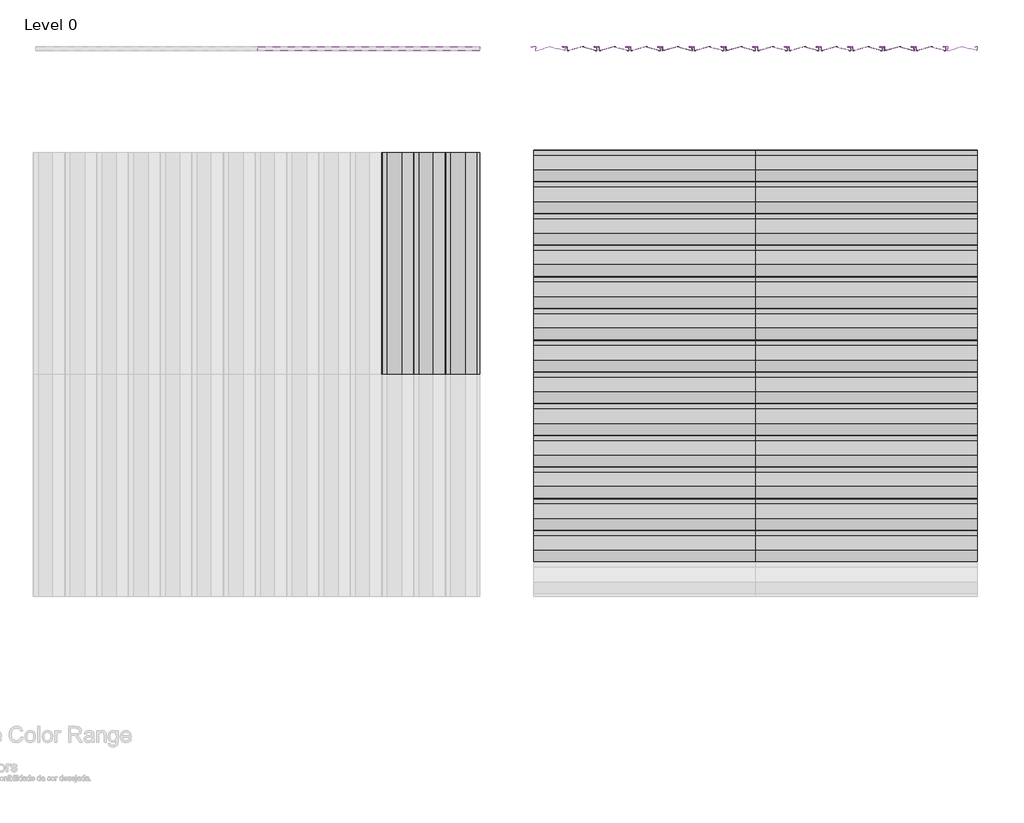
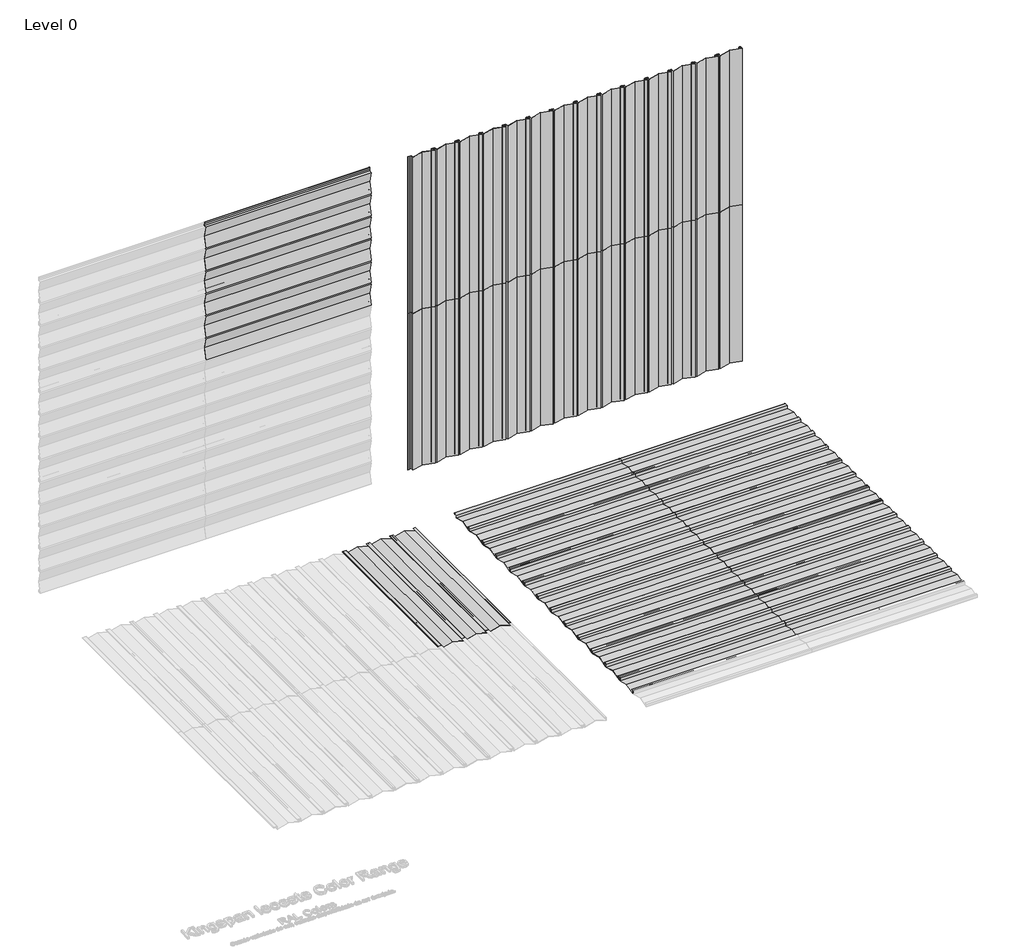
# One storey, part 2 of 2: 63 proxies.
"""IFC4 building model written with IfcOpenShell, lengths in millimetres."""

from ifc_helpers import new_model, si_unit, origin, place, context, project, spatial, transform, mapped, element, save
from components import ps9_0_standard_panel_ns_52e81e55, ps9_0_standard_panel_ns_6eacb7c6

model = new_model("IFC4")

# Units and contexts
model_context = context("Model", 3, world=origin())
ifc_project = project(units=[si_unit("LENGTHUNIT", "METRE", prefix="MILLI")], contexts=[model_context])

# Site, building, storey
site = spatial("IfcSite", under=ifc_project)
building = spatial("IfcBuilding", under=site)
storey = spatial("IfcBuildingStorey", under=building, Name="Level 0", Elevation=0.0)

# Proxies
placement = place(None, origin())
ps9_0_standard_panel_ns_shape = ps9_0_standard_panel_ns_52e81e55(model_context)
element("IfcBuildingElementProxy", 1, Name="PS9.0 : Standard Panel_NS", ObjectType="PS9.0 : Standard Panel_NS", at=placement, inside=storey, context=model_context, shape_type="MappedRepresentation", body=[
    mapped(ps9_0_standard_panel_ns_shape, transform((1289.7088668, 1358.3113453, 0.0), x_axis=(1.0, 0.0, 0.0), y_axis=(0.0, 1.0, 0.0), z_axis=(0.0, 0.0, 1.0))),
])
element("IfcBuildingElementProxy", 2, Name="PS9.0 : Standard Panel_NS", ObjectType="PS9.0 : Standard Panel_NS", at=placement, inside=storey, context=model_context, shape_type="MappedRepresentation", body=[
    mapped(ps9_0_standard_panel_ns_shape, transform((1289.7088668, 3758.3113453, 0.0), x_axis=(1.0, 0.0, 0.0), y_axis=(0.0, 1.0, 0.0), z_axis=(0.0, 0.0, 1.0))),
])
element("IfcBuildingElementProxy", 3, Name="PS9.0 : Standard Panel_NS", ObjectType="PS9.0 : Standard Panel_NS", at=placement, inside=storey, context=model_context, shape_type="MappedRepresentation", body=[
    mapped(ps9_0_standard_panel_ns_shape, transform((3389.7088668, 1358.3113453, 0.0), x_axis=(1.0, 0.0, 0.0), y_axis=(0.0, 1.0, 0.0), z_axis=(0.0, 0.0, 1.0))),
])
element("IfcBuildingElementProxy", 4, Name="PS9.0 : Standard Panel_NS", ObjectType="PS9.0 : Standard Panel_NS", at=placement, inside=storey, context=model_context, shape_type="MappedRepresentation", body=[
    mapped(ps9_0_standard_panel_ns_shape, transform((3389.7088668, 3758.3113453, 0.0), x_axis=(1.0, 0.0, 0.0), y_axis=(0.0, 1.0, 0.0), z_axis=(0.0, 0.0, 1.0))),
])
ps9_0_standard_panel_ns_2_shape = ps9_0_standard_panel_ns_6eacb7c6(model_context)
element("IfcBuildingElementProxy", 5, Name="PS9.0 : Standard Panel_NS", ObjectType="PS9.0 : Standard Panel_NS", at=placement, inside=storey, context=model_context, shape_type="MappedRepresentation", body=[
    mapped(ps9_0_standard_panel_ns_2_shape, transform((1589.7088666, 5063.0274074, 0.0), x_axis=(0.0, 0.0, 1.0), y_axis=(-1.0, 0.0, 0.0), z_axis=(0.0, -1.0, 0.0))),
])
element("IfcBuildingElementProxy", 6, Name="PS9.0 : Standard Panel_NS", ObjectType="PS9.0 : Standard Panel_NS", at=placement, inside=storey, context=model_context, shape_type="MappedRepresentation", body=[
    mapped(ps9_0_standard_panel_ns_2_shape, transform((1589.7088666, 5063.0274074, 2100.0), x_axis=(0.0, 0.0, 1.0), y_axis=(-1.0, 0.0, 0.0), z_axis=(0.0, -1.0, 0.0))),
])
element("IfcBuildingElementProxy", 7, Name="PS9.0 : Standard Panel_NS", ObjectType="PS9.0 : Standard Panel_NS", at=placement, inside=storey, context=model_context, shape_type="MappedRepresentation", body=[
    mapped(ps9_0_standard_panel_ns_2_shape, transform((-1317.7637295, 5063.0274074, 3900.0), x_axis=(1.0, 0.0, 0.0), y_axis=(0.0, 0.0, 1.0), z_axis=(0.0, -1.0, 0.0))),
])
element("IfcBuildingElementProxy", 8, Name="PS9.0 : Standard Panel_NS", ObjectType="PS9.0 : Standard Panel_NS", at=placement, inside=storey, context=model_context, shape_type="MappedRepresentation", body=[
    mapped(ps9_0_standard_panel_ns_2_shape, transform((3989.7088665, 5063.0274074, 0.0), x_axis=(0.0, 0.0, 1.0), y_axis=(-1.0, 0.0, 0.0), z_axis=(0.0, -1.0, 0.0))),
])
element("IfcBuildingElementProxy", 9, Name="PS9.0 : Standard Panel_NS", ObjectType="PS9.0 : Standard Panel_NS", at=placement, inside=storey, context=model_context, shape_type="MappedRepresentation", body=[
    mapped(ps9_0_standard_panel_ns_2_shape, transform((3989.7088665, 5063.0274074, 2100.0), x_axis=(0.0, 0.0, 1.0), y_axis=(-1.0, 0.0, 0.0), z_axis=(0.0, -1.0, 0.0))),
])
element("IfcBuildingElementProxy", 10, Name="PS9.0 : Standard Panel_NS", ObjectType="PS9.0 : Standard Panel_NS", at=placement, inside=storey, context=model_context, shape_type="MappedRepresentation", body=[
    mapped(ps9_0_standard_panel_ns_2_shape, transform((3089.7088665, 5063.0274074, 0.0), x_axis=(0.0, 0.0, 1.0), y_axis=(-1.0, 0.0, 0.0), z_axis=(0.0, -1.0, 0.0))),
])
element("IfcBuildingElementProxy", 11, Name="PS9.0 : Standard Panel_NS", ObjectType="PS9.0 : Standard Panel_NS", at=placement, inside=storey, context=model_context, shape_type="MappedRepresentation", body=[
    mapped(ps9_0_standard_panel_ns_2_shape, transform((3089.7088665, 5063.0274074, 2100.0), x_axis=(0.0, 0.0, 1.0), y_axis=(-1.0, 0.0, 0.0), z_axis=(0.0, -1.0, 0.0))),
])
element("IfcBuildingElementProxy", 12, Name="PS9.0 : Standard Panel_NS", ObjectType="PS9.0 : Standard Panel_NS", at=placement, inside=storey, context=model_context, shape_type="MappedRepresentation", body=[
    mapped(ps9_0_standard_panel_ns_2_shape, transform((-1317.7637295, 5063.0274074, 2400.0), x_axis=(1.0, 0.0, 0.0), y_axis=(0.0, 0.0, 1.0), z_axis=(0.0, -1.0, 0.0))),
])
element("IfcBuildingElementProxy", 13, Name="PS9.0 : Standard Panel_NS", ObjectType="PS9.0 : Standard Panel_NS", at=placement, inside=storey, context=model_context, shape_type="MappedRepresentation", body=[
    mapped(ps9_0_standard_panel_ns_2_shape, transform((5489.7088666, 5063.0274074, 0.0), x_axis=(0.0, 0.0, 1.0), y_axis=(-1.0, 0.0, 0.0), z_axis=(0.0, -1.0, 0.0))),
])
element("IfcBuildingElementProxy", 14, Name="PS9.0 : Standard Panel_NS", ObjectType="PS9.0 : Standard Panel_NS", at=placement, inside=storey, context=model_context, shape_type="MappedRepresentation", body=[
    mapped(ps9_0_standard_panel_ns_2_shape, transform((5489.7088666, 5063.0274074, 2100.0), x_axis=(0.0, 0.0, 1.0), y_axis=(-1.0, 0.0, 0.0), z_axis=(0.0, -1.0, 0.0))),
])
element("IfcBuildingElementProxy", 15, Name="PS9.0 : Standard Panel_NS", ObjectType="PS9.0 : Standard Panel_NS", at=placement, inside=storey, context=model_context, shape_type="MappedRepresentation", body=[
    mapped(ps9_0_standard_panel_ns_shape, transform((1289.7088668, 2258.3113453, 0.0), x_axis=(1.0, 0.0, 0.0), y_axis=(0.0, 1.0, 0.0), z_axis=(0.0, 0.0, 1.0))),
])
element("IfcBuildingElementProxy", 16, Name="PS9.0 : Standard Panel_NS", ObjectType="PS9.0 : Standard Panel_NS", at=placement, inside=storey, context=model_context, shape_type="MappedRepresentation", body=[
    mapped(ps9_0_standard_panel_ns_shape, transform((782.2362705, 1958.3113453, 0.0), x_axis=(0.0, 1.0, 0.0), y_axis=(-1.0, 0.0, 0.0), z_axis=(0.0, 0.0, 1.0))),
])
element("IfcBuildingElementProxy", 17, Name="PS9.0 : Standard Panel_NS", ObjectType="PS9.0 : Standard Panel_NS", at=placement, inside=storey, context=model_context, shape_type="MappedRepresentation", body=[
    mapped(ps9_0_standard_panel_ns_shape, transform((3389.7088668, 2258.3113453, 0.0), x_axis=(1.0, 0.0, 0.0), y_axis=(0.0, 1.0, 0.0), z_axis=(0.0, 0.0, 1.0))),
])
element("IfcBuildingElementProxy", 18, Name="PS9.0 : Standard Panel_NS", ObjectType="PS9.0 : Standard Panel_NS", at=placement, inside=storey, context=model_context, shape_type="MappedRepresentation", body=[
    mapped(ps9_0_standard_panel_ns_2_shape, transform((2789.7088665, 5063.0274074, 0.0), x_axis=(0.0, 0.0, 1.0), y_axis=(-1.0, 0.0, 0.0), z_axis=(0.0, -1.0, 0.0))),
])
element("IfcBuildingElementProxy", 19, Name="PS9.0 : Standard Panel_NS", ObjectType="PS9.0 : Standard Panel_NS", at=placement, inside=storey, context=model_context, shape_type="MappedRepresentation", body=[
    mapped(ps9_0_standard_panel_ns_2_shape, transform((2789.7088665, 5063.0274074, 2100.0), x_axis=(0.0, 0.0, 1.0), y_axis=(-1.0, 0.0, 0.0), z_axis=(0.0, -1.0, 0.0))),
])
element("IfcBuildingElementProxy", 20, Name="PS9.0 : Standard Panel_NS", ObjectType="PS9.0 : Standard Panel_NS", at=placement, inside=storey, context=model_context, shape_type="MappedRepresentation", body=[
    mapped(ps9_0_standard_panel_ns_2_shape, transform((-1317.7637295, 5063.0274074, 2700.0), x_axis=(1.0, 0.0, 0.0), y_axis=(0.0, 0.0, 1.0), z_axis=(0.0, -1.0, 0.0))),
])
element("IfcBuildingElementProxy", 21, Name="PS9.0 : Standard Panel_NS", ObjectType="PS9.0 : Standard Panel_NS", at=placement, inside=storey, context=model_context, shape_type="MappedRepresentation", body=[
    mapped(ps9_0_standard_panel_ns_2_shape, transform((5189.7088665, 5063.0274074, 0.0), x_axis=(0.0, 0.0, 1.0), y_axis=(-1.0, 0.0, 0.0), z_axis=(0.0, -1.0, 0.0))),
])
element("IfcBuildingElementProxy", 22, Name="PS9.0 : Standard Panel_NS", ObjectType="PS9.0 : Standard Panel_NS", at=placement, inside=storey, context=model_context, shape_type="MappedRepresentation", body=[
    mapped(ps9_0_standard_panel_ns_2_shape, transform((5189.7088665, 5063.0274074, 2100.0), x_axis=(0.0, 0.0, 1.0), y_axis=(-1.0, 0.0, 0.0), z_axis=(0.0, -1.0, 0.0))),
])
element("IfcBuildingElementProxy", 23, Name="PS9.0 : Standard Panel_NS", ObjectType="PS9.0 : Standard Panel_NS", at=placement, inside=storey, context=model_context, shape_type="MappedRepresentation", body=[
    mapped(ps9_0_standard_panel_ns_2_shape, transform((2489.7088665, 5063.0274074, 0.0), x_axis=(0.0, 0.0, 1.0), y_axis=(-1.0, 0.0, 0.0), z_axis=(0.0, -1.0, 0.0))),
])
element("IfcBuildingElementProxy", 24, Name="PS9.0 : Standard Panel_NS", ObjectType="PS9.0 : Standard Panel_NS", at=placement, inside=storey, context=model_context, shape_type="MappedRepresentation", body=[
    mapped(ps9_0_standard_panel_ns_2_shape, transform((2489.7088665, 5063.0274074, 2100.0), x_axis=(0.0, 0.0, 1.0), y_axis=(-1.0, 0.0, 0.0), z_axis=(0.0, -1.0, 0.0))),
])
element("IfcBuildingElementProxy", 25, Name="PS9.0 : Standard Panel_NS", ObjectType="PS9.0 : Standard Panel_NS", at=placement, inside=storey, context=model_context, shape_type="MappedRepresentation", body=[
    mapped(ps9_0_standard_panel_ns_2_shape, transform((-1317.7637295, 5063.0274074, 3000.0), x_axis=(1.0, 0.0, 0.0), y_axis=(0.0, 0.0, 1.0), z_axis=(0.0, -1.0, 0.0))),
])
element("IfcBuildingElementProxy", 26, Name="PS9.0 : Standard Panel_NS", ObjectType="PS9.0 : Standard Panel_NS", at=placement, inside=storey, context=model_context, shape_type="MappedRepresentation", body=[
    mapped(ps9_0_standard_panel_ns_2_shape, transform((4889.7088665, 5063.0274074, 0.0), x_axis=(0.0, 0.0, 1.0), y_axis=(-1.0, 0.0, 0.0), z_axis=(0.0, -1.0, 0.0))),
])
element("IfcBuildingElementProxy", 27, Name="PS9.0 : Standard Panel_NS", ObjectType="PS9.0 : Standard Panel_NS", at=placement, inside=storey, context=model_context, shape_type="MappedRepresentation", body=[
    mapped(ps9_0_standard_panel_ns_2_shape, transform((4889.7088665, 5063.0274074, 2100.0), x_axis=(0.0, 0.0, 1.0), y_axis=(-1.0, 0.0, 0.0), z_axis=(0.0, -1.0, 0.0))),
])
element("IfcBuildingElementProxy", 28, Name="PS9.0 : Standard Panel_NS", ObjectType="PS9.0 : Standard Panel_NS", at=placement, inside=storey, context=model_context, shape_type="MappedRepresentation", body=[
    mapped(ps9_0_standard_panel_ns_2_shape, transform((2189.7088665, 5063.0274074, 0.0), x_axis=(0.0, 0.0, 1.0), y_axis=(-1.0, 0.0, 0.0), z_axis=(0.0, -1.0, 0.0))),
])
element("IfcBuildingElementProxy", 29, Name="PS9.0 : Standard Panel_NS", ObjectType="PS9.0 : Standard Panel_NS", at=placement, inside=storey, context=model_context, shape_type="MappedRepresentation", body=[
    mapped(ps9_0_standard_panel_ns_2_shape, transform((2189.7088665, 5063.0274074, 2100.0), x_axis=(0.0, 0.0, 1.0), y_axis=(-1.0, 0.0, 0.0), z_axis=(0.0, -1.0, 0.0))),
])
element("IfcBuildingElementProxy", 30, Name="PS9.0 : Standard Panel_NS", ObjectType="PS9.0 : Standard Panel_NS", at=placement, inside=storey, context=model_context, shape_type="MappedRepresentation", body=[
    mapped(ps9_0_standard_panel_ns_2_shape, transform((-1317.7637295, 5063.0274074, 3300.0), x_axis=(1.0, 0.0, 0.0), y_axis=(0.0, 0.0, 1.0), z_axis=(0.0, -1.0, 0.0))),
])
element("IfcBuildingElementProxy", 31, Name="PS9.0 : Standard Panel_NS", ObjectType="PS9.0 : Standard Panel_NS", at=placement, inside=storey, context=model_context, shape_type="MappedRepresentation", body=[
    mapped(ps9_0_standard_panel_ns_2_shape, transform((4589.7088665, 5063.0274074, 0.0), x_axis=(0.0, 0.0, 1.0), y_axis=(-1.0, 0.0, 0.0), z_axis=(0.0, -1.0, 0.0))),
])
element("IfcBuildingElementProxy", 32, Name="PS9.0 : Standard Panel_NS", ObjectType="PS9.0 : Standard Panel_NS", at=placement, inside=storey, context=model_context, shape_type="MappedRepresentation", body=[
    mapped(ps9_0_standard_panel_ns_2_shape, transform((4589.7088665, 5063.0274074, 2100.0), x_axis=(0.0, 0.0, 1.0), y_axis=(-1.0, 0.0, 0.0), z_axis=(0.0, -1.0, 0.0))),
])
element("IfcBuildingElementProxy", 33, Name="PS9.0 : Standard Panel_NS", ObjectType="PS9.0 : Standard Panel_NS", at=placement, inside=storey, context=model_context, shape_type="MappedRepresentation", body=[
    mapped(ps9_0_standard_panel_ns_2_shape, transform((1889.7088665, 5063.0274074, 0.0), x_axis=(0.0, 0.0, 1.0), y_axis=(-1.0, 0.0, 0.0), z_axis=(0.0, -1.0, 0.0))),
])
element("IfcBuildingElementProxy", 34, Name="PS9.0 : Standard Panel_NS", ObjectType="PS9.0 : Standard Panel_NS", at=placement, inside=storey, context=model_context, shape_type="MappedRepresentation", body=[
    mapped(ps9_0_standard_panel_ns_2_shape, transform((1889.7088665, 5063.0274074, 2100.0), x_axis=(0.0, 0.0, 1.0), y_axis=(-1.0, 0.0, 0.0), z_axis=(0.0, -1.0, 0.0))),
])
element("IfcBuildingElementProxy", 35, Name="PS9.0 : Standard Panel_NS", ObjectType="PS9.0 : Standard Panel_NS", at=placement, inside=storey, context=model_context, shape_type="MappedRepresentation", body=[
    mapped(ps9_0_standard_panel_ns_2_shape, transform((-1317.7637295, 5063.0274074, 3600.0), x_axis=(1.0, 0.0, 0.0), y_axis=(0.0, 0.0, 1.0), z_axis=(0.0, -1.0, 0.0))),
])
element("IfcBuildingElementProxy", 36, Name="PS9.0 : Standard Panel_NS", ObjectType="PS9.0 : Standard Panel_NS", at=placement, inside=storey, context=model_context, shape_type="MappedRepresentation", body=[
    mapped(ps9_0_standard_panel_ns_2_shape, transform((4289.7088665, 5063.0274074, 0.0), x_axis=(0.0, 0.0, 1.0), y_axis=(-1.0, 0.0, 0.0), z_axis=(0.0, -1.0, 0.0))),
])
element("IfcBuildingElementProxy", 37, Name="PS9.0 : Standard Panel_NS", ObjectType="PS9.0 : Standard Panel_NS", at=placement, inside=storey, context=model_context, shape_type="MappedRepresentation", body=[
    mapped(ps9_0_standard_panel_ns_2_shape, transform((4289.7088665, 5063.0274074, 2100.0), x_axis=(0.0, 0.0, 1.0), y_axis=(-1.0, 0.0, 0.0), z_axis=(0.0, -1.0, 0.0))),
])
element("IfcBuildingElementProxy", 38, Name="PS9.0 : Standard Panel_NS", ObjectType="PS9.0 : Standard Panel_NS", at=placement, inside=storey, context=model_context, shape_type="MappedRepresentation", body=[
    mapped(ps9_0_standard_panel_ns_2_shape, transform((3689.7088665, 5063.0274074, 0.0), x_axis=(0.0, 0.0, 1.0), y_axis=(-1.0, 0.0, 0.0), z_axis=(0.0, -1.0, 0.0))),
])
element("IfcBuildingElementProxy", 39, Name="PS9.0 : Standard Panel_NS", ObjectType="PS9.0 : Standard Panel_NS", at=placement, inside=storey, context=model_context, shape_type="MappedRepresentation", body=[
    mapped(ps9_0_standard_panel_ns_2_shape, transform((3689.7088665, 5063.0274074, 2100.0), x_axis=(0.0, 0.0, 1.0), y_axis=(-1.0, 0.0, 0.0), z_axis=(0.0, -1.0, 0.0))),
])
element("IfcBuildingElementProxy", 40, Name="PS9.0 : Standard Panel_NS", ObjectType="PS9.0 : Standard Panel_NS", at=placement, inside=storey, context=model_context, shape_type="MappedRepresentation", body=[
    mapped(ps9_0_standard_panel_ns_2_shape, transform((3389.7088665, 5063.0274074, 0.0), x_axis=(0.0, 0.0, 1.0), y_axis=(-1.0, 0.0, 0.0), z_axis=(0.0, -1.0, 0.0))),
])
element("IfcBuildingElementProxy", 41, Name="PS9.0 : Standard Panel_NS", ObjectType="PS9.0 : Standard Panel_NS", at=placement, inside=storey, context=model_context, shape_type="MappedRepresentation", body=[
    mapped(ps9_0_standard_panel_ns_2_shape, transform((3389.7088665, 5063.0274074, 2100.0), x_axis=(0.0, 0.0, 1.0), y_axis=(-1.0, 0.0, 0.0), z_axis=(0.0, -1.0, 0.0))),
])
element("IfcBuildingElementProxy", 42, Name="PS9.0 : Standard Panel_NS", ObjectType="PS9.0 : Standard Panel_NS", at=placement, inside=storey, context=model_context, shape_type="MappedRepresentation", body=[
    mapped(ps9_0_standard_panel_ns_shape, transform((1289.7088668, 158.3113453, 0.0), x_axis=(1.0, 0.0, 0.0), y_axis=(0.0, 1.0, 0.0), z_axis=(0.0, 0.0, 1.0))),
])
element("IfcBuildingElementProxy", 43, Name="PS9.0 : Standard Panel_NS", ObjectType="PS9.0 : Standard Panel_NS", at=placement, inside=storey, context=model_context, shape_type="MappedRepresentation", body=[
    mapped(ps9_0_standard_panel_ns_shape, transform((1289.7088668, 2558.3113453, 0.0), x_axis=(1.0, 0.0, 0.0), y_axis=(0.0, 1.0, 0.0), z_axis=(0.0, 0.0, 1.0))),
])
element("IfcBuildingElementProxy", 44, Name="PS9.0 : Standard Panel_NS", ObjectType="PS9.0 : Standard Panel_NS", at=placement, inside=storey, context=model_context, shape_type="MappedRepresentation", body=[
    mapped(ps9_0_standard_panel_ns_shape, transform((482.2362703, 1958.3113453, 0.0), x_axis=(0.0, 1.0, 0.0), y_axis=(-1.0, 0.0, 0.0), z_axis=(0.0, 0.0, 1.0))),
])
element("IfcBuildingElementProxy", 45, Name="PS9.0 : Standard Panel_NS", ObjectType="PS9.0 : Standard Panel_NS", at=placement, inside=storey, context=model_context, shape_type="MappedRepresentation", body=[
    mapped(ps9_0_standard_panel_ns_shape, transform((3389.7088668, 158.3113453, 0.0), x_axis=(1.0, 0.0, 0.0), y_axis=(0.0, 1.0, 0.0), z_axis=(0.0, 0.0, 1.0))),
])
element("IfcBuildingElementProxy", 46, Name="PS9.0 : Standard Panel_NS", ObjectType="PS9.0 : Standard Panel_NS", at=placement, inside=storey, context=model_context, shape_type="MappedRepresentation", body=[
    mapped(ps9_0_standard_panel_ns_shape, transform((3389.7088668, 2558.3113453, 0.0), x_axis=(1.0, 0.0, 0.0), y_axis=(0.0, 1.0, 0.0), z_axis=(0.0, 0.0, 1.0))),
])
element("IfcBuildingElementProxy", 47, Name="PS9.0 : Standard Panel_NS", ObjectType="PS9.0 : Standard Panel_NS", at=placement, inside=storey, context=model_context, shape_type="MappedRepresentation", body=[
    mapped(ps9_0_standard_panel_ns_shape, transform((1289.7088668, 458.3113453, 0.0), x_axis=(1.0, 0.0, 0.0), y_axis=(0.0, 1.0, 0.0), z_axis=(0.0, 0.0, 1.0))),
])
element("IfcBuildingElementProxy", 48, Name="PS9.0 : Standard Panel_NS", ObjectType="PS9.0 : Standard Panel_NS", at=placement, inside=storey, context=model_context, shape_type="MappedRepresentation", body=[
    mapped(ps9_0_standard_panel_ns_shape, transform((1289.7088668, 2858.3113453, 0.0), x_axis=(1.0, 0.0, 0.0), y_axis=(0.0, 1.0, 0.0), z_axis=(0.0, 0.0, 1.0))),
])
element("IfcBuildingElementProxy", 49, Name="PS9.0 : Standard Panel_NS", ObjectType="PS9.0 : Standard Panel_NS", at=placement, inside=storey, context=model_context, shape_type="MappedRepresentation", body=[
    mapped(ps9_0_standard_panel_ns_shape, transform((182.2362703, 1958.3113453, 0.0), x_axis=(0.0, 1.0, 0.0), y_axis=(-1.0, 0.0, 0.0), z_axis=(0.0, 0.0, 1.0))),
])
element("IfcBuildingElementProxy", 50, Name="PS9.0 : Standard Panel_NS", ObjectType="PS9.0 : Standard Panel_NS", at=placement, inside=storey, context=model_context, shape_type="MappedRepresentation", body=[
    mapped(ps9_0_standard_panel_ns_shape, transform((3389.7088668, 458.3113453, 0.0), x_axis=(1.0, 0.0, 0.0), y_axis=(0.0, 1.0, 0.0), z_axis=(0.0, 0.0, 1.0))),
])
element("IfcBuildingElementProxy", 51, Name="PS9.0 : Standard Panel_NS", ObjectType="PS9.0 : Standard Panel_NS", at=placement, inside=storey, context=model_context, shape_type="MappedRepresentation", body=[
    mapped(ps9_0_standard_panel_ns_shape, transform((3389.7088668, 2858.3113453, 0.0), x_axis=(1.0, 0.0, 0.0), y_axis=(0.0, 1.0, 0.0), z_axis=(0.0, 0.0, 1.0))),
])
element("IfcBuildingElementProxy", 52, Name="PS9.0 : Standard Panel_NS", ObjectType="PS9.0 : Standard Panel_NS", at=placement, inside=storey, context=model_context, shape_type="MappedRepresentation", body=[
    mapped(ps9_0_standard_panel_ns_shape, transform((1289.7088668, 758.3113453, 0.0), x_axis=(1.0, 0.0, 0.0), y_axis=(0.0, 1.0, 0.0), z_axis=(0.0, 0.0, 1.0))),
])
element("IfcBuildingElementProxy", 53, Name="PS9.0 : Standard Panel_NS", ObjectType="PS9.0 : Standard Panel_NS", at=placement, inside=storey, context=model_context, shape_type="MappedRepresentation", body=[
    mapped(ps9_0_standard_panel_ns_shape, transform((1289.7088668, 3158.3113453, 0.0), x_axis=(1.0, 0.0, 0.0), y_axis=(0.0, 1.0, 0.0), z_axis=(0.0, 0.0, 1.0))),
])
element("IfcBuildingElementProxy", 54, Name="PS9.0 : Standard Panel_NS", ObjectType="PS9.0 : Standard Panel_NS", at=placement, inside=storey, context=model_context, shape_type="MappedRepresentation", body=[
    mapped(ps9_0_standard_panel_ns_shape, transform((3389.7088668, 758.3113453, 0.0), x_axis=(1.0, 0.0, 0.0), y_axis=(0.0, 1.0, 0.0), z_axis=(0.0, 0.0, 1.0))),
])
element("IfcBuildingElementProxy", 55, Name="PS9.0 : Standard Panel_NS", ObjectType="PS9.0 : Standard Panel_NS", at=placement, inside=storey, context=model_context, shape_type="MappedRepresentation", body=[
    mapped(ps9_0_standard_panel_ns_shape, transform((3389.7088668, 3158.3113453, 0.0), x_axis=(1.0, 0.0, 0.0), y_axis=(0.0, 1.0, 0.0), z_axis=(0.0, 0.0, 1.0))),
])
element("IfcBuildingElementProxy", 56, Name="PS9.0 : Standard Panel_NS", ObjectType="PS9.0 : Standard Panel_NS", at=placement, inside=storey, context=model_context, shape_type="MappedRepresentation", body=[
    mapped(ps9_0_standard_panel_ns_shape, transform((1289.7088668, 1058.3113453, 0.0), x_axis=(1.0, 0.0, 0.0), y_axis=(0.0, 1.0, 0.0), z_axis=(0.0, 0.0, 1.0))),
])
element("IfcBuildingElementProxy", 57, Name="PS9.0 : Standard Panel_NS", ObjectType="PS9.0 : Standard Panel_NS", at=placement, inside=storey, context=model_context, shape_type="MappedRepresentation", body=[
    mapped(ps9_0_standard_panel_ns_shape, transform((1289.7088668, 3458.3113453, 0.0), x_axis=(1.0, 0.0, 0.0), y_axis=(0.0, 1.0, 0.0), z_axis=(0.0, 0.0, 1.0))),
])
element("IfcBuildingElementProxy", 58, Name="PS9.0 : Standard Panel_NS", ObjectType="PS9.0 : Standard Panel_NS", at=placement, inside=storey, context=model_context, shape_type="MappedRepresentation", body=[
    mapped(ps9_0_standard_panel_ns_shape, transform((3389.7088668, 1058.3113453, 0.0), x_axis=(1.0, 0.0, 0.0), y_axis=(0.0, 1.0, 0.0), z_axis=(0.0, 0.0, 1.0))),
])
element("IfcBuildingElementProxy", 59, Name="PS9.0 : Standard Panel_NS", ObjectType="PS9.0 : Standard Panel_NS", at=placement, inside=storey, context=model_context, shape_type="MappedRepresentation", body=[
    mapped(ps9_0_standard_panel_ns_shape, transform((3389.7088668, 3458.3113453, 0.0), x_axis=(1.0, 0.0, 0.0), y_axis=(0.0, 1.0, 0.0), z_axis=(0.0, 0.0, 1.0))),
])
element("IfcBuildingElementProxy", 60, Name="PS9.0 : Standard Panel_NS", ObjectType="PS9.0 : Standard Panel_NS", at=placement, inside=storey, context=model_context, shape_type="MappedRepresentation", body=[
    mapped(ps9_0_standard_panel_ns_shape, transform((1289.7088668, 1658.3113453, 0.0), x_axis=(1.0, 0.0, 0.0), y_axis=(0.0, 1.0, 0.0), z_axis=(0.0, 0.0, 1.0))),
])
element("IfcBuildingElementProxy", 61, Name="PS9.0 : Standard Panel_NS", ObjectType="PS9.0 : Standard Panel_NS", at=placement, inside=storey, context=model_context, shape_type="MappedRepresentation", body=[
    mapped(ps9_0_standard_panel_ns_shape, transform((3389.7088668, 1658.3113453, 0.0), x_axis=(1.0, 0.0, 0.0), y_axis=(0.0, 1.0, 0.0), z_axis=(0.0, 0.0, 1.0))),
])
element("IfcBuildingElementProxy", 62, Name="PS9.0 : Standard Panel_NS", ObjectType="PS9.0 : Standard Panel_NS", at=placement, inside=storey, context=model_context, shape_type="MappedRepresentation", body=[
    mapped(ps9_0_standard_panel_ns_shape, transform((1289.7088668, 1958.3113453, 0.0), x_axis=(1.0, 0.0, 0.0), y_axis=(0.0, 1.0, 0.0), z_axis=(0.0, 0.0, 1.0))),
])
element("IfcBuildingElementProxy", 63, Name="PS9.0 : Standard Panel_NS", ObjectType="PS9.0 : Standard Panel_NS", at=placement, inside=storey, context=model_context, shape_type="MappedRepresentation", body=[
    mapped(ps9_0_standard_panel_ns_shape, transform((3389.7088668, 1958.3113453, 0.0), x_axis=(1.0, 0.0, 0.0), y_axis=(0.0, 1.0, 0.0), z_axis=(0.0, 0.0, 1.0))),
])

save(model, "model.ifc")
